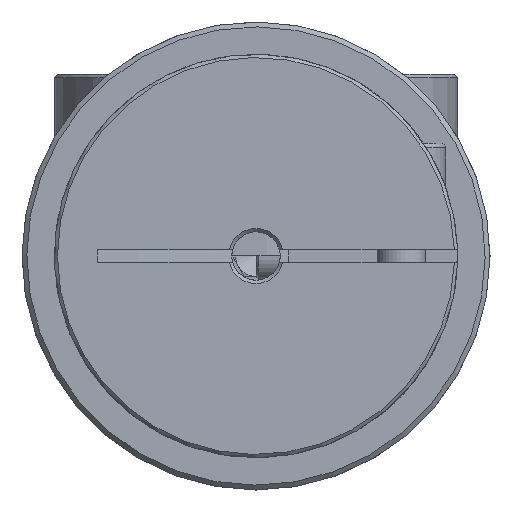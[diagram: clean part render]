
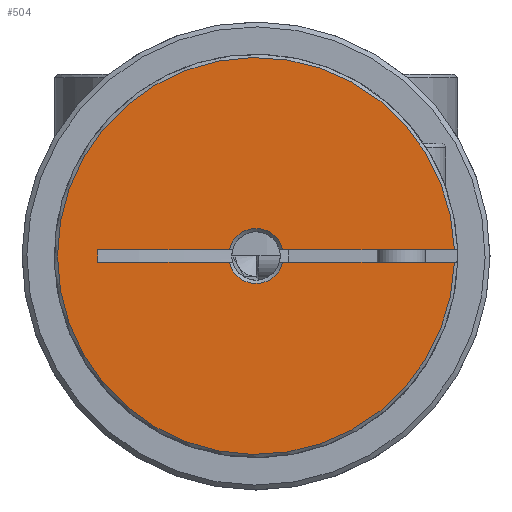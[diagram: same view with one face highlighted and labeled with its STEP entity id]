
A CAD part, left-side view. The second image highlights one B-rep face of the part: STEP entity #504.
In plain terms, the highlighted planar face has unit normal (-1, 0, 0) as drawn and (0, 0, 1) by its records, which use the part's own axes.
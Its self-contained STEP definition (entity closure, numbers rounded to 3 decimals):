
#504 = ADVANCED_FACE( 'NONE', ( #909 ), #910, .T. );
#909 = FACE_OUTER_BOUND( '', #1412, .T. );
#910 = PLANE( '', #1413 );
#1412 = EDGE_LOOP( '', ( #2179, #2180, #2181, #2182, #2183, #2184, #2185, #2186 ) );
#1413 = AXIS2_PLACEMENT_3D( '', #2187, #2188, #2189 );
#2179 = ORIENTED_EDGE( '', *, *, #2923, .F. );
#2180 = ORIENTED_EDGE( '', *, *, #2924, .T. );
#2181 = ORIENTED_EDGE( '', *, *, #2925, .F. );
#2182 = ORIENTED_EDGE( '', *, *, #2926, .T. );
#2183 = ORIENTED_EDGE( '', *, *, #2927, .T. );
#2184 = ORIENTED_EDGE( '', *, *, #2928, .T. );
#2185 = ORIENTED_EDGE( '', *, *, #2919, .T. );
#2186 = ORIENTED_EDGE( '', *, *, #2929, .F. );
#2187 = CARTESIAN_POINT( '', ( 0., 0., 11.25 ) );
#2188 = DIRECTION( '', ( 0., 0., 1. ) );
#2189 = DIRECTION( '', ( 1., 0., 0. ) );
#2919 = EDGE_CURVE( 'NONE', #3323, #3324, #3325, .T. );
#2923 = EDGE_CURVE( 'NONE', #3331, #3332, #3333, .F. );
#2924 = EDGE_CURVE( 'NONE', #3331, #3334, #3335, .F. );
#2925 = EDGE_CURVE( 'NONE', #3336, #3334, #3337, .T. );
#2926 = EDGE_CURVE( 'NONE', #3336, #3338, #3339, .T. );
#2927 = EDGE_CURVE( 'NONE', #3338, #3340, #3341, .T. );
#2928 = EDGE_CURVE( 'NONE', #3340, #3323, #3342, .F. );
#2929 = EDGE_CURVE( 'NONE', #3332, #3324, #3343, .F. );
#3323 = VERTEX_POINT( 'NONE', #4220 );
#3324 = VERTEX_POINT( 'NONE', #4221 );
#3325 = LINE( '', #4222, #4223 );
#3331 = VERTEX_POINT( 'NONE', #4233 );
#3332 = VERTEX_POINT( 'NONE', #4234 );
#3333 = LINE( '', #4235, #4236 );
#3334 = VERTEX_POINT( 'NONE', #4237 );
#3335 = CIRCLE( '', #4238, 1.7 );
#3336 = VERTEX_POINT( 'NONE', #4239 );
#3337 = LINE( '', #4240, #4241 );
#3338 = VERTEX_POINT( 'NONE', #4242 );
#3339 = CIRCLE( '', #4243, 12.3 );
#3340 = VERTEX_POINT( 'NONE', #4244 );
#3341 = LINE( '', #4245, #4246 );
#3342 = CIRCLE( '', #4247, 1.7 );
#3343 = LINE( '', #4248, #4249 );
#4220 = CARTESIAN_POINT( '', ( -1.652, -0.4, 11.25 ) );
#4221 = CARTESIAN_POINT( '', ( -9.815, -0.4, 11.25 ) );
#4222 = CARTESIAN_POINT( '', ( 0., -0.4, 11.25 ) );
#4223 = VECTOR( '', #4858, 1000. );
#4233 = CARTESIAN_POINT( '', ( -1.652, 0.4, 11.25 ) );
#4234 = CARTESIAN_POINT( '', ( -9.815, 0.4, 11.25 ) );
#4235 = CARTESIAN_POINT( '', ( 7., 0.4, 11.25 ) );
#4236 = VECTOR( '', #4863, 1000. );
#4237 = CARTESIAN_POINT( '', ( 1.652, 0.4, 11.25 ) );
#4238 = AXIS2_PLACEMENT_3D( '', #4864, #4865, #4866 );
#4239 = CARTESIAN_POINT( '', ( 12.293, 0.4, 11.25 ) );
#4240 = CARTESIAN_POINT( '', ( 0., 0.4, 11.25 ) );
#4241 = VECTOR( '', #4867, 1000. );
#4242 = CARTESIAN_POINT( '', ( 12.293, -0.4, 11.25 ) );
#4243 = AXIS2_PLACEMENT_3D( '', #4868, #4869, #4870 );
#4244 = CARTESIAN_POINT( '', ( 1.652, -0.4, 11.25 ) );
#4245 = CARTESIAN_POINT( '', ( 0., -0.4, 11.25 ) );
#4246 = VECTOR( '', #4871, 1000. );
#4247 = AXIS2_PLACEMENT_3D( '', #4872, #4873, #4874 );
#4248 = CARTESIAN_POINT( '', ( -9.815, -0.4, 11.25 ) );
#4249 = VECTOR( '', #4875, 1000. );
#4858 = DIRECTION( '', ( -1., 0., 0. ) );
#4863 = DIRECTION( '', ( 1., 0., 0. ) );
#4864 = CARTESIAN_POINT( '', ( 0., 0., 11.25 ) );
#4865 = DIRECTION( '', ( 0., 0., 1. ) );
#4866 = DIRECTION( '', ( 1., 0., 0. ) );
#4867 = DIRECTION( '', ( -1., 0., 0. ) );
#4868 = CARTESIAN_POINT( '', ( 0., 0., 11.25 ) );
#4869 = DIRECTION( '', ( 0., 0., 1. ) );
#4870 = DIRECTION( '', ( 1., 0., 0. ) );
#4871 = DIRECTION( '', ( -1., 0., 0. ) );
#4872 = CARTESIAN_POINT( '', ( 0., 0., 11.25 ) );
#4873 = DIRECTION( '', ( 0., 0., 1. ) );
#4874 = DIRECTION( '', ( 1., 0., 0. ) );
#4875 = DIRECTION( '', ( 0., 1., 0. ) );
